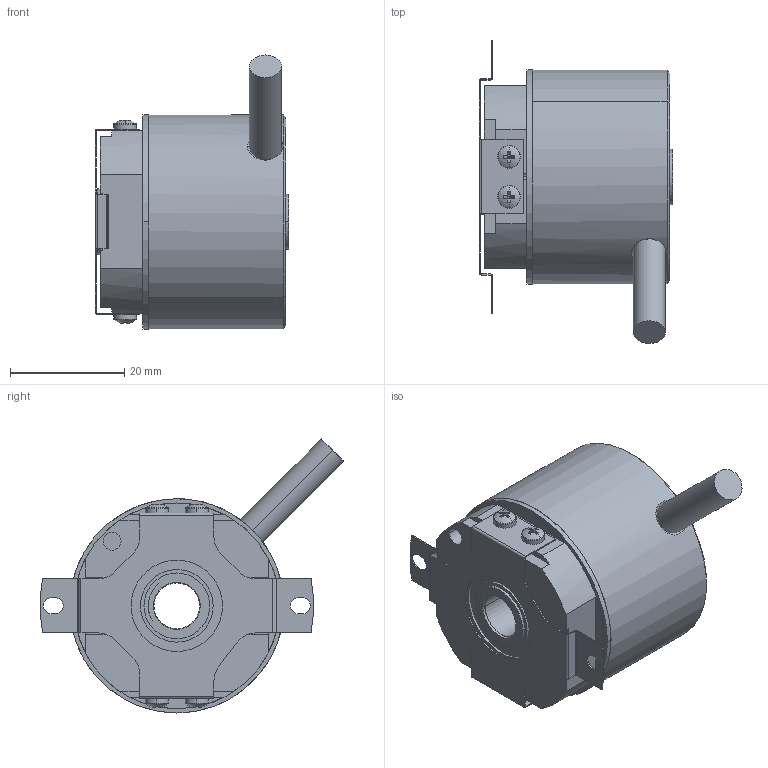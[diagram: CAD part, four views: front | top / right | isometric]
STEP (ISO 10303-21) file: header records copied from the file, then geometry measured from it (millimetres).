
FILE_DESCRIPTION (( 'STEP AP214' ), '1' );
FILE_NAME ('ËÈÐ-ÄÀ237Ò äëÿ ñàéòà.STEP', '2017-07-04T12:54:09', ( '' ), ( '' ), 'SwSTEP 2.0', 'SolidWorks 2013', '' );
FILE_SCHEMA (( 'AUTOMOTIVE_DESIGN' ));
Length unit declared in the file: millimetre
Products named in the file (12): 忺摎錪; ﾊ鮻; pan head cross recess screw_din_ISO 7045 - M2 x 4 - Z --- 4S; ﾌ ﾄﾀ237ﾒ; 扻豵鵨; 005_扻錪犩; 扻錪犩 瀁噌; Ïîäøèïíèê ñ çàùèòîéé; 青蜞 镱澍; radial ball bearing_68_iso_ISO 15 RBB - 1810 - 14,DE,AC,14_68; ﾂ琿; ËÈÐ-ÄÀ237Ò äëÿ ñàéòà
Assembly tree (16 placements, depth 3):
  ËÈÐ-ÄÀ237Ò äëÿ ñàéòà
    ﾂ琿
    Ïîäøèïíèê ñ çàùèòîéé  x2
      radial ball bearing_68_iso_ISO 15 RBB - 1810 - 14,DE,AC,14_68
      青蜞 镱澍
    扻錪犩 瀁噌
    005_扻錪犩
    扻豵鵨
    ﾌ ﾄﾀ237ﾒ
    pan head cross recess screw_din_ISO 7045 - M2 x 4 - Z --- 4S  x4
    ﾊ鮻
    忺摎錪
Bounding box: 33.85 x 53.07 x 47.94 mm (x, y, z)
Volume: 15387.1 mm3; surface area: 21278.5 mm2
Topology: 17 solids, 17 shells, 1096 faces, 3119 edges, 2006 vertices
Faces by surface type: plane 276, cylinder 260, sphere 232, cone 198, torus 122, bspline 8
Entity records: 26272 total; most frequent: CARTESIAN_POINT 10680, ORIENTED_EDGE 3266, DIRECTION 3120, EDGE_CURVE 1633, AXIS2_PLACEMENT_3D 1340, VERTEX_POINT 1061, CIRCLE 742, EDGE_LOOP 670
